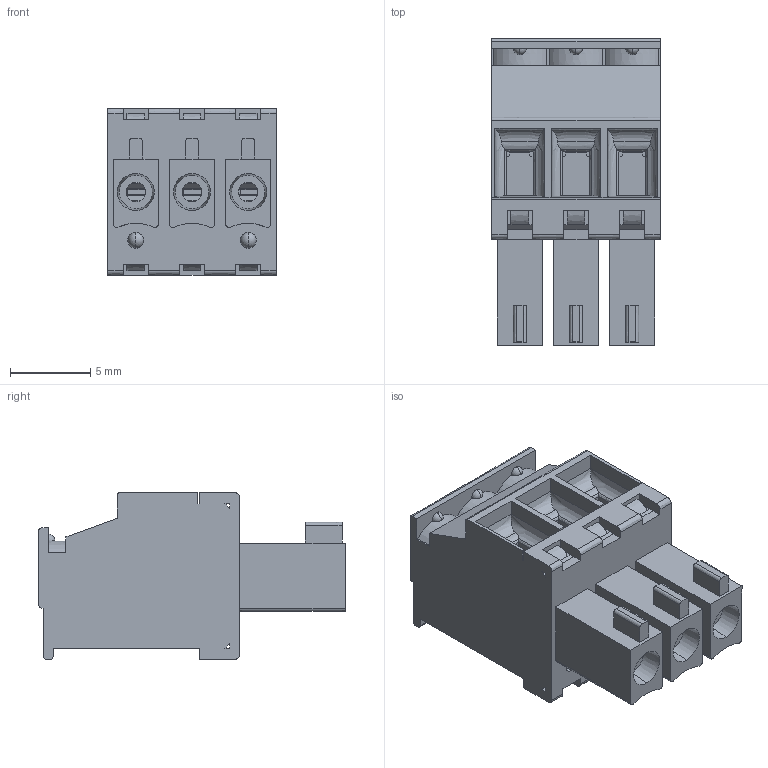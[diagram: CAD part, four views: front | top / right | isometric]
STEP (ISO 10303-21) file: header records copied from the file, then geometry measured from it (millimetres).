
FILE_DESCRIPTION((''),'2;1');
FILE_NAME('ASM0001_ASM','2014-03-12T',('explstions'),(''),'PRO/ENGINEER BY PARAMETRIC TECHNOLOGY CORPORATION, 2009440','PRO/ENGINEER BY PARAMETRIC TECHNOLOGY CORPORATION, 2009440','');
FILE_SCHEMA(('CONFIG_CONTROL_DESIGN'));
Products named in the file (1): ASM0001_ASM
Bounding box: 10.5 x 19.1 x 10.4 mm (x, y, z)
Surface area: 3262.8 mm2 (no closed solid volume)
Topology: 0 solids, 0 shells, 1072 faces, 5968 edges, 5934 vertices
Faces by surface type: bspline 1038, torus 24, sphere 10
Entity records: 99958 total; most frequent: CARTESIAN_POINT 47036, DIRECTION 8038, TRIMMED_CURVE 7452, VECTOR 6934, LINE 6934, DEFINITIONAL_REPRESENTATION 5910, PCURVE 5910, COMPOSITE_CURVE_SEGMENT 5910
